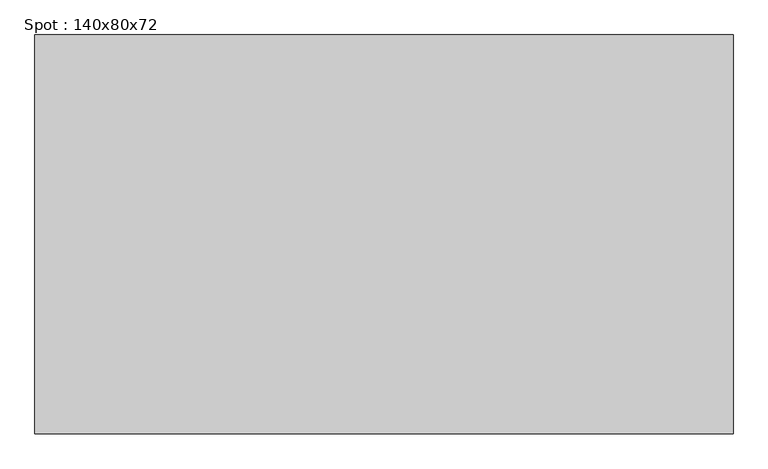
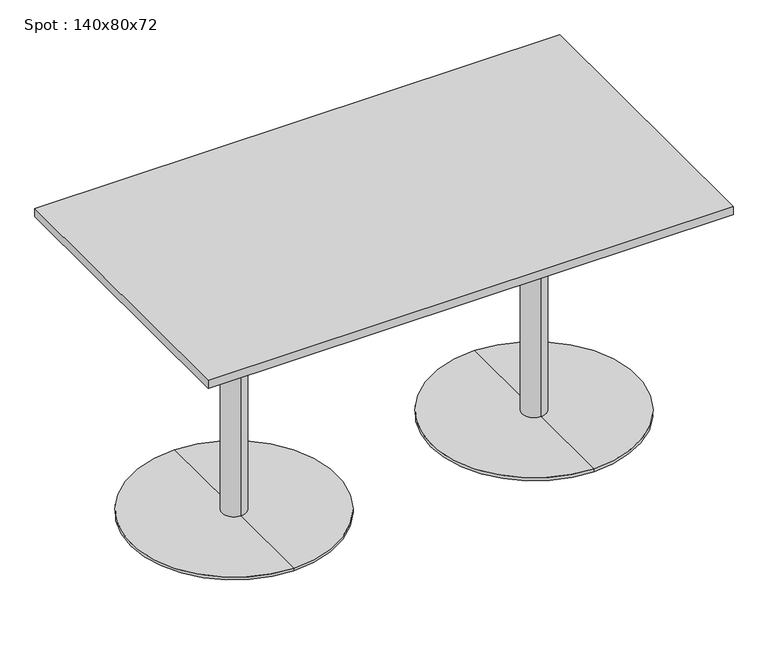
"""IFC4 building model written with IfcOpenShell, lengths in millimetres: furniture geometry, Spot : 140x80x72."""

from ifc_helpers import new_model, si_unit, frame, origin, place, context, project, spatial, polyline, circle_curve, outline, extrude, source, transform, mapped, element, save
from ifc_brep_helpers import plane_surface, cylinder_surface, revolved_surface, advanced_brep


def spot_140x80x72_7a1998d1(model_context):
    return source(origin(), model_context, "Body", "SolidModel", [
        extrude(outline(polyline([(700.0, 400.0), (700.0, -400.0), (-700.0, -400.0), (-700.0, 400.0), (700.0, 400.0)])), frame((0.0, 0.0, 698.0), z_axis=(0.0, 0.0, 1.0), x_axis=(1.0, 0.0, 0.0)), (0.0, 0.0, 1.0), 22.0),
        advanced_brep(
        [(-400.0, 32.0, 10.0), (-400.0, -32.0, 10.0), (-400.0, -32.0, 667.406916), (-400.0, 32.0, 667.406916), (-400.0, 275.0, 10.0), (-400.0, -275.0, 10.0), (-400.0, 275.0, 2.0), (-400.0, -275.0, 2.0), (-400.0, 0.0, 2.0), (-400.0, 150.0, 698.0), (-400.0, -150.0, 698.0), (-400.0, 0.0, 698.0), (-400.0, 150.0, 686.7213673), (-400.0, -150.0, 686.7213673)],
        [
            (0, 1, circle_curve(frame((-400.0, 0.0, 10.0), z_axis=(0.0, 0.0, 1.0), x_axis=(0.0, -1.0, 0.0)), 32.0)),
            (1, 2),
            (2, 3, circle_curve(frame((-400.0, 0.0, 667.406916), z_axis=(0.0, 0.0, -1.0), x_axis=(0.0, -1.0, 0.0)), 32.0)),
            (3, 0),
            (1, 0, circle_curve(frame((-400.0, 0.0, 10.0), z_axis=(0.0, 0.0, 1.0), x_axis=(0.0, -1.0, 0.0)), 32.0)),
            (3, 2, circle_curve(frame((-400.0, 0.0, 667.406916), z_axis=(0.0, 0.0, -1.0), x_axis=(0.0, -1.0, 0.0)), 32.0)),
            (4, 5, circle_curve(frame((-400.0, 0.0, 10.0), z_axis=(0.0, 0.0, 1.0), x_axis=(0.0, -1.0, 0.0)), 275.0)),
            (5, 1),
            (0, 4),
            (5, 4, circle_curve(frame((-400.0, 0.0, 10.0), z_axis=(0.0, 0.0, 1.0), x_axis=(0.0, -1.0, 0.0)), 275.0)),
            (6, 7, circle_curve(frame((-400.0, 0.0, 2.0), z_axis=(0.0, 0.0, 1.0), x_axis=(0.0, -1.0, 0.0)), 275.0)),
            (7, 5),
            (4, 6),
            (7, 6, circle_curve(frame((-400.0, 0.0, 2.0), z_axis=(0.0, 0.0, 1.0), x_axis=(0.0, -1.0, 0.0)), 275.0)),
            (8, 7),
            (6, 8),
            (9, 10, circle_curve(frame((-400.0, 0.0, 698.0), z_axis=(0.0, 0.0, 1.0), x_axis=(0.0, -1.0, 0.0)), 150.0)),
            (10, 11),
            (11, 9),
            (10, 9, circle_curve(frame((-400.0, 0.0, 698.0), z_axis=(0.0, 0.0, 1.0), x_axis=(0.0, -1.0, 0.0)), 150.0)),
            (12, 13, circle_curve(frame((-400.0, 0.0, 686.7213673), z_axis=(0.0, 0.0, 1.0), x_axis=(0.0, -1.0, 0.0)), 150.0)),
            (13, 10),
            (9, 12),
            (13, 12, circle_curve(frame((-400.0, 0.0, 686.7213673), z_axis=(0.0, 0.0, 1.0), x_axis=(0.0, -1.0, 0.0)), 150.0)),
            (2, 13),
            (12, 3),
        ],
        [
            cylinder_surface(frame((-400.0, 0.0, 1060.0), z_axis=(0.0, 0.0, -1.0), x_axis=(0.0, -1.0, 0.0)), 32.0),
            plane_surface(frame((-400.0, 0.0, 10.0), z_axis=(0.0, 0.0, 1.0), x_axis=(0.0, -1.0, 0.0))),
            cylinder_surface(frame((-400.0, 0.0, 1060.0), z_axis=(0.0, 0.0, -1.0), x_axis=(0.0, -1.0, 0.0)), 275.0),
            plane_surface(frame((-400.0, 0.0, 2.0), z_axis=(0.0, 0.0, -1.0), x_axis=(0.0, -1.0, 0.0))),
            plane_surface(frame((-400.0, 0.0, 698.0), z_axis=(0.0, 0.0, 1.0), x_axis=(0.0, -1.0, 0.0))),
            cylinder_surface(frame((-400.0, 0.0, 1060.0), z_axis=(0.0, 0.0, -1.0), x_axis=(0.0, -1.0, 0.0)), 150.0),
            revolved_surface(polyline([(-400.0, -150.0, 686.7213673), (-400.0, -32.0, 667.406916)]), (-400.0, 0.0, 1060.0), (0.0, 0.0, -1.0)),
        ],
        [
            (0, [[1, 2, 3, 4]]),
            (0, [[5, -4, 6, -2]]),
            (1, [[7, 8, -1, 9]]),
            (1, [[10, -9, -5, -8]]),
            (2, [[11, 12, -7, 13]]),
            (2, [[14, -13, -10, -12]]),
            (3, [[15, -11, 16]]),
            (3, [[-16, -14, -15]]),
            (4, [[17, 18, 19]]),
            (4, [[20, -19, -18]]),
            (5, [[21, 22, -17, 23]]),
            (5, [[24, -23, -20, -22]]),
            (6, [[-3, 25, -21, 26]]),
            (6, [[-6, -26, -24, -25]]),
        ],
    ),
        advanced_brep(
        [(400.0, 32.0, 10.0), (400.0, -32.0, 10.0), (400.0, -32.0, 667.406916), (400.0, 32.0, 667.406916), (400.0, 275.0, 10.0), (400.0, -275.0, 10.0), (400.0, 275.0, 2.0), (400.0, -275.0, 2.0), (400.0, 0.0, 2.0), (400.0, 150.0, 698.0), (400.0, -150.0, 698.0), (400.0, 0.0, 698.0), (400.0, 150.0, 686.7213673), (400.0, -150.0, 686.7213673)],
        [
            (0, 1, circle_curve(frame((400.0, 0.0, 10.0), z_axis=(0.0, 0.0, 1.0), x_axis=(0.0, -1.0, 0.0)), 32.0)),
            (1, 2),
            (2, 3, circle_curve(frame((400.0, 0.0, 667.406916), z_axis=(0.0, 0.0, -1.0), x_axis=(0.0, -1.0, 0.0)), 32.0)),
            (3, 0),
            (1, 0, circle_curve(frame((400.0, 0.0, 10.0), z_axis=(0.0, 0.0, 1.0), x_axis=(0.0, -1.0, 0.0)), 32.0)),
            (3, 2, circle_curve(frame((400.0, 0.0, 667.406916), z_axis=(0.0, 0.0, -1.0), x_axis=(0.0, -1.0, 0.0)), 32.0)),
            (4, 5, circle_curve(frame((400.0, 0.0, 10.0), z_axis=(0.0, 0.0, 1.0), x_axis=(0.0, -1.0, 0.0)), 275.0)),
            (5, 1),
            (0, 4),
            (5, 4, circle_curve(frame((400.0, 0.0, 10.0), z_axis=(0.0, 0.0, 1.0), x_axis=(0.0, -1.0, 0.0)), 275.0)),
            (6, 7, circle_curve(frame((400.0, 0.0, 2.0), z_axis=(0.0, 0.0, 1.0), x_axis=(0.0, -1.0, 0.0)), 275.0)),
            (7, 5),
            (4, 6),
            (7, 6, circle_curve(frame((400.0, 0.0, 2.0), z_axis=(0.0, 0.0, 1.0), x_axis=(0.0, -1.0, 0.0)), 275.0)),
            (8, 7),
            (6, 8),
            (9, 10, circle_curve(frame((400.0, 0.0, 698.0), z_axis=(0.0, 0.0, 1.0), x_axis=(0.0, -1.0, 0.0)), 150.0)),
            (10, 11),
            (11, 9),
            (10, 9, circle_curve(frame((400.0, 0.0, 698.0), z_axis=(0.0, 0.0, 1.0), x_axis=(0.0, -1.0, 0.0)), 150.0)),
            (12, 13, circle_curve(frame((400.0, 0.0, 686.7213673), z_axis=(0.0, 0.0, 1.0), x_axis=(0.0, -1.0, 0.0)), 150.0)),
            (13, 10),
            (9, 12),
            (13, 12, circle_curve(frame((400.0, 0.0, 686.7213673), z_axis=(0.0, 0.0, 1.0), x_axis=(0.0, -1.0, 0.0)), 150.0)),
            (2, 13),
            (12, 3),
        ],
        [
            cylinder_surface(frame((400.0, 0.0, 1060.0), z_axis=(0.0, 0.0, -1.0), x_axis=(0.0, -1.0, 0.0)), 32.0),
            plane_surface(frame((400.0, 0.0, 10.0), z_axis=(0.0, 0.0, 1.0), x_axis=(0.0, -1.0, 0.0))),
            cylinder_surface(frame((400.0, 0.0, 1060.0), z_axis=(0.0, 0.0, -1.0), x_axis=(0.0, -1.0, 0.0)), 275.0),
            plane_surface(frame((400.0, 0.0, 2.0), z_axis=(0.0, 0.0, -1.0), x_axis=(0.0, -1.0, 0.0))),
            plane_surface(frame((400.0, 0.0, 698.0), z_axis=(0.0, 0.0, 1.0), x_axis=(0.0, -1.0, 0.0))),
            cylinder_surface(frame((400.0, 0.0, 1060.0), z_axis=(0.0, 0.0, -1.0), x_axis=(0.0, -1.0, 0.0)), 150.0),
            revolved_surface(polyline([(400.0, -150.0, 686.7213673), (400.0, -32.0, 667.406916)]), (400.0, 0.0, 1060.0), (0.0, 0.0, -1.0)),
        ],
        [
            (0, [[1, 2, 3, 4]]),
            (0, [[5, -4, 6, -2]]),
            (1, [[7, 8, -1, 9]]),
            (1, [[10, -9, -5, -8]]),
            (2, [[11, 12, -7, 13]]),
            (2, [[14, -13, -10, -12]]),
            (3, [[15, -11, 16]]),
            (3, [[-16, -14, -15]]),
            (4, [[17, 18, 19]]),
            (4, [[20, -19, -18]]),
            (5, [[21, 22, -17, 23]]),
            (5, [[24, -23, -20, -22]]),
            (6, [[-3, 25, -21, 26]]),
            (6, [[-6, -26, -24, -25]]),
        ],
    ),
    ])


if __name__ == "__main__":
    model = new_model("IFC4")
    model_context = context("Model", 3, world=origin())
    ifc_project = project(units=[si_unit("LENGTHUNIT", "METRE", prefix="MILLI")], contexts=[model_context])
    site = spatial("IfcSite", under=ifc_project)
    building = spatial("IfcBuilding", under=site)
    placement = place(None, origin())
    spot_140x80x72_shape = spot_140x80x72_7a1998d1(model_context)
    element("IfcFurniture", 1, ObjectType="Spot : 140x80x72", at=placement, inside=building, context=model_context, shape_type="MappedRepresentation", body=[
        mapped(spot_140x80x72_shape, transform((0.0, 0.0, 0.0), x_axis=(1.0, 0.0, 0.0), y_axis=(0.0, 1.0, 0.0), z_axis=(0.0, 0.0, 1.0))),
    ])
    save(model, "model.ifc")
